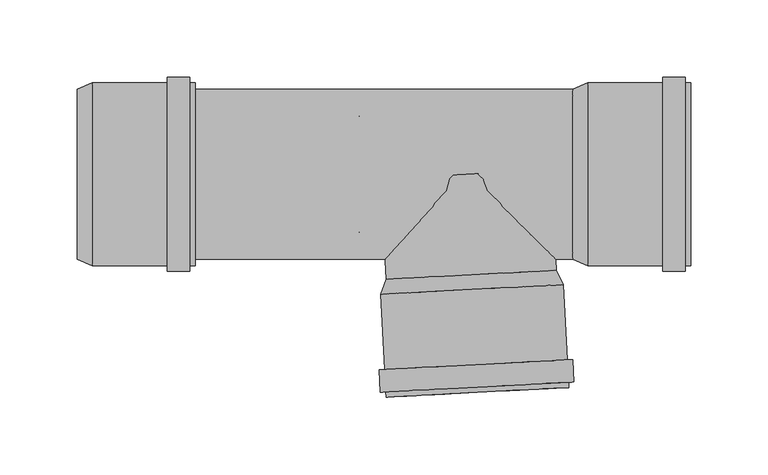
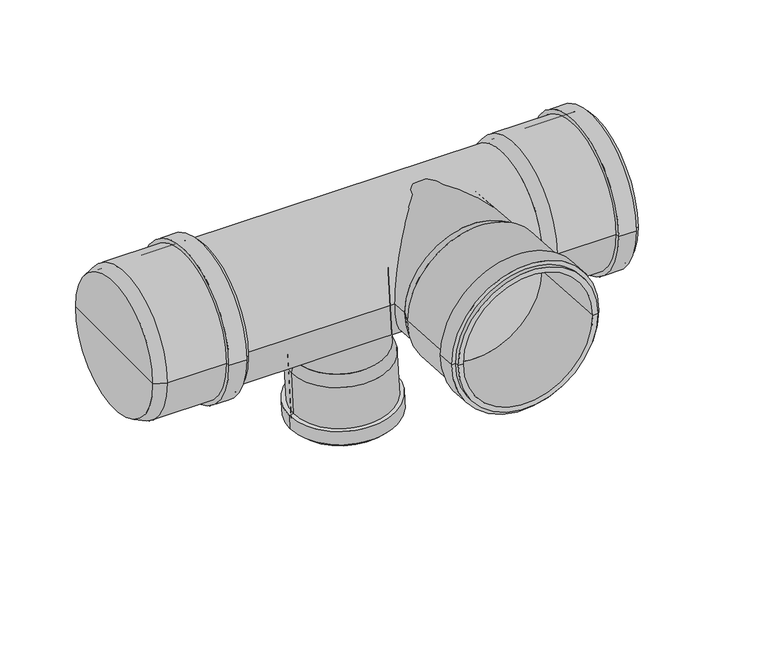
"""IFC4 building model written with IfcOpenShell, lengths in millimetres: pipe fitting geometry, pf_HTEP : pf_HTEP."""

from ifc_helpers import new_model, si_unit, point, frame, origin, origin_2d, place, context, project, spatial, polyline, circle_curve, trimmed, segment, composite_curve, outline, extrude, source, transform, mapped, element, save
from ifc_brep_helpers import plane_surface, cylinder_surface, revolved_surface, advanced_brep


def pipe_fitting_a816e6ad(model_context):
    return source(origin(), model_context, "Body", "SolidModel", [
        advanced_brep(
        [(-103.1619095, 0.0, -64.6765331), (-28.2646944, 0.0, -60.7513364), (-24.6717513, 0.0, -70.0760755), (-105.7604695, 0.0, -74.3257552), (-65.7133019, 0.0, -62.7139348), (-103.0651677, 0.0, -125.7551762), (-21.9764495, 0.0, -121.5054966), (-25.0722011, 0.0, -121.667738), (-99.9694162, 0.0, -125.5929348), (-103.24311, 0.0, -122.3598358), (-22.1543918, 0.0, -118.1101562), (-106.6384504, 0.0, -122.5377781), (-18.7590513, 0.0, -117.9322139), (-107.2455475, 0.0, -110.9536755), (-19.3661484, 0.0, -106.3481113), (-103.8502071, 0.0, -110.7757332), (-22.7614888, 0.0, -106.5260536), (-102.6647179, 0.0, -74.1635137), (-27.7675028, 0.0, -70.238317), (-65.2161104, 0.0, -72.2009154)],
        [
            (0, 1, circle_curve(frame((-65.7133019, 0.0, -62.7139348), z_axis=(0.05233595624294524, 0.0, -0.9986295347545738), x_axis=(0.9986295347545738, 0.0, 0.05233595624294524)), 37.5)),
            (1, 2),
            (2, 3, circle_curve(frame((-65.2161104, 0.0, -72.2009154), z_axis=(-0.05233595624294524, 0.0, 0.9986295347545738), x_axis=(0.9986295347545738, 0.0, 0.05233595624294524)), 40.6)),
            (3, 0),
            (1, 0, circle_curve(frame((-65.7133019, 0.0, -62.7139348), z_axis=(0.05233595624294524, 0.0, -0.9986295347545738), x_axis=(0.9986295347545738, 0.0, 0.05233595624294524)), 37.5)),
            (3, 2, circle_curve(frame((-65.2161104, 0.0, -72.2009154), z_axis=(-0.05233595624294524, 0.0, 0.9986295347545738), x_axis=(0.9986295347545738, 0.0, 0.05233595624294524)), 40.6)),
            (4, 1),
            (0, 4),
            (5, 6, circle_curve(frame((-62.5208086, 0.0, -123.6303364), z_axis=(0.05233595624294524, 0.0, -0.9986295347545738), x_axis=(0.9986295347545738, 0.0, 0.05233595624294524)), 40.6)),
            (6, 7),
            (7, 8, circle_curve(frame((-62.5208086, 0.0, -123.6303364), z_axis=(-0.05233595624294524, 0.0, 0.9986295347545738), x_axis=(0.9986295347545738, 0.0, 0.05233595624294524)), 37.5)),
            (8, 5),
            (6, 5, circle_curve(frame((-62.5208086, 0.0, -123.6303364), z_axis=(0.05233595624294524, 0.0, -0.9986295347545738), x_axis=(0.9986295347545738, 0.0, 0.05233595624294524)), 40.6)),
            (8, 7, circle_curve(frame((-62.5208086, 0.0, -123.6303364), z_axis=(-0.05233595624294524, 0.0, 0.9986295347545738), x_axis=(0.9986295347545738, 0.0, 0.05233595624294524)), 37.5)),
            (9, 10, circle_curve(frame((-62.6987509, 0.0, -120.234996), z_axis=(0.05233595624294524, 0.0, -0.9986295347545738), x_axis=(0.9986295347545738, 0.0, 0.05233595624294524)), 40.6)),
            (10, 6),
            (5, 9),
            (10, 9, circle_curve(frame((-62.6987509, 0.0, -120.234996), z_axis=(0.05233595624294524, 0.0, -0.9986295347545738), x_axis=(0.9986295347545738, 0.0, 0.05233595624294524)), 40.6)),
            (11, 12, circle_curve(frame((-62.6987509, 0.0, -120.234996), z_axis=(0.05233595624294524, 0.0, -0.9986295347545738), x_axis=(0.9986295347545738, 0.0, 0.05233595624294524)), 44.0)),
            (12, 10),
            (9, 11),
            (12, 11, circle_curve(frame((-62.6987509, 0.0, -120.234996), z_axis=(0.05233595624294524, 0.0, -0.9986295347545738), x_axis=(0.9986295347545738, 0.0, 0.05233595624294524)), 44.0)),
            (13, 14, circle_curve(frame((-63.305848, 0.0, -108.6508934), z_axis=(0.05233595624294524, 0.0, -0.9986295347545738), x_axis=(0.9986295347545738, 0.0, 0.05233595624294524)), 44.0)),
            (14, 12),
            (11, 13),
            (14, 13, circle_curve(frame((-63.305848, 0.0, -108.6508934), z_axis=(0.05233595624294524, 0.0, -0.9986295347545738), x_axis=(0.9986295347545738, 0.0, 0.05233595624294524)), 44.0)),
            (15, 16, circle_curve(frame((-63.305848, 0.0, -108.6508934), z_axis=(0.05233595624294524, 0.0, -0.9986295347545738), x_axis=(0.9986295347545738, 0.0, 0.05233595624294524)), 40.6)),
            (16, 14),
            (13, 15),
            (16, 15, circle_curve(frame((-63.305848, 0.0, -108.6508934), z_axis=(0.05233595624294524, 0.0, -0.9986295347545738), x_axis=(0.9986295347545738, 0.0, 0.05233595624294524)), 40.6)),
            (2, 16),
            (15, 3),
            (17, 18, circle_curve(frame((-65.2161104, 0.0, -72.2009154), z_axis=(0.05233595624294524, 0.0, -0.9986295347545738), x_axis=(0.9986295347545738, 0.0, 0.05233595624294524)), 37.5)),
            (18, 19),
            (19, 17),
            (18, 17, circle_curve(frame((-65.2161104, 0.0, -72.2009154), z_axis=(0.05233595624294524, 0.0, -0.9986295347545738), x_axis=(0.9986295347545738, 0.0, 0.05233595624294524)), 37.5)),
            (7, 18),
            (17, 8),
        ],
        [
            revolved_surface(polyline([(-24.6717513, 0.0, -70.0760755), (-28.2646944, 0.0, -60.7513364)]), (-65.7133019, 0.0, -62.7139348), (-0.05233595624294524, 0.0, 0.9986295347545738)),
            plane_surface(frame((-65.7133019, 0.0, -62.7139348), z_axis=(-0.05233595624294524, 0.0, 0.9986295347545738), x_axis=(0.9986295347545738, 0.0, 0.05233595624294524))),
            plane_surface(frame((-62.5208086, 0.0, -123.6303364), z_axis=(0.05233595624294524, 0.0, -0.9986295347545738), x_axis=(0.9986295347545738, 0.0, 0.05233595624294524))),
            cylinder_surface(frame((-65.7133019, 0.0, -62.7139348), z_axis=(-0.05233595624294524, 0.0, 0.9986295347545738), x_axis=(0.9986295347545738, 0.0, 0.05233595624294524)), 40.6),
            plane_surface(frame((-62.6987509, 0.0, -120.234996), z_axis=(0.05233595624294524, 0.0, -0.9986295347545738), x_axis=(0.9986295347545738, 0.0, 0.05233595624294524))),
            cylinder_surface(frame((-65.7133019, 0.0, -62.7139348), z_axis=(-0.05233595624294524, 0.0, 0.9986295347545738), x_axis=(0.9986295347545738, 0.0, 0.05233595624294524)), 44.0),
            plane_surface(frame((-63.305848, 0.0, -108.6508934), z_axis=(-0.05233595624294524, 0.0, 0.9986295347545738), x_axis=(0.9986295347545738, 0.0, 0.05233595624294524))),
            plane_surface(frame((-65.2161104, 0.0, -72.2009154), z_axis=(0.05233595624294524, 0.0, -0.9986295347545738), x_axis=(0.9986295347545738, 0.0, 0.05233595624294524))),
            revolved_surface(polyline([(-27.76750276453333, 0.0, -70.2383169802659), (-25.072201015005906, 0.0, -121.66773807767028)]), (-65.7133019, 0.0, -62.7139348), (-0.05233595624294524, 0.0, 0.9986295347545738)),
        ],
        [
            (0, [[1, 2, 3, 4]]),
            (0, [[5, -4, 6, -2]]),
            (1, [[7, -1, 8]]),
            (1, [[-8, -5, -7]]),
            (2, [[9, 10, 11, 12]]),
            (2, [[13, -12, 14, -10]]),
            (3, [[15, 16, -9, 17]]),
            (3, [[18, -17, -13, -16]]),
            (4, [[19, 20, -15, 21]]),
            (4, [[22, -21, -18, -20]]),
            (5, [[23, 24, -19, 25]]),
            (5, [[26, -25, -22, -24]]),
            (6, [[27, 28, -23, 29]]),
            (6, [[30, -29, -26, -28]]),
            (3, [[-3, 31, -27, 32]]),
            (3, [[-6, -32, -30, -31]]),
            (7, [[33, 34, 35]]),
            (7, [[36, -35, -34]]),
            (8, [[-11, 37, -33, 38]]),
            (8, [[-14, -38, -36, -37]]),
        ],
    ),
        advanced_brep(
        [(-51.5227873, -67.7893974, 0.0), (58.3264616, -62.0324422, 0.0), (62.9180342, -71.3048453, 0.0), (-55.1199768, -77.4909554, 0.0), (3.4018372, -64.9109198, 0.0), (-51.6396357, -143.8998194, 0.0), (66.3983753, -137.7137094, 0.0), (62.3039942, -137.9282868, 0.0), (-47.5452546, -143.685242, 0.0), (-51.8175779, -140.504479, 0.0), (66.2204331, -134.318369, 0.0), (-55.2129183, -140.6824212, 0.0), (69.6157735, -134.1404267, 0.0), (-55.9717897, -126.202293, 0.0), (68.8569021, -119.6602985, 0.0), (-52.5764493, -126.0243507, 0.0), (65.4615617, -119.8382407, 0.0), (-51.0255957, -77.2763779, 0.0), (58.8236532, -71.5194227, 0.0), (3.8990287, -74.3979003, 0.0)],
        [
            (0, 1, circle_curve(frame((3.4018372, -64.9109198, 0.0), z_axis=(0.052335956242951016, -0.9986295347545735, 0.0), x_axis=(0.9986295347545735, 0.052335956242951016, 0.0)), 55.0)),
            (1, 2),
            (2, 3, circle_curve(frame((3.8990287, -74.3979003, 0.0), z_axis=(-0.052335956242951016, 0.9986295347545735, 0.0), x_axis=(0.9986295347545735, 0.052335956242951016, 0.0)), 59.1)),
            (3, 0),
            (1, 0, circle_curve(frame((3.4018372, -64.9109198, 0.0), z_axis=(0.052335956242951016, -0.9986295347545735, 0.0), x_axis=(0.9986295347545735, 0.052335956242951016, 0.0)), 55.0)),
            (3, 2, circle_curve(frame((3.8990287, -74.3979003, 0.0), z_axis=(-0.052335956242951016, 0.9986295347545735, 0.0), x_axis=(0.9986295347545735, 0.052335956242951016, 0.0)), 59.1)),
            (4, 1),
            (0, 4),
            (5, 6, circle_curve(frame((7.3793698, -140.8067644, 0.0), z_axis=(0.052335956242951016, -0.9986295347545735, 0.0), x_axis=(0.9986295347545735, 0.052335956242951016, 0.0)), 59.1)),
            (6, 7),
            (7, 8, circle_curve(frame((7.3793698, -140.8067644, 0.0), z_axis=(-0.052335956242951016, 0.9986295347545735, 0.0), x_axis=(0.9986295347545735, 0.052335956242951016, 0.0)), 55.0)),
            (8, 5),
            (6, 5, circle_curve(frame((7.3793698, -140.8067644, 0.0), z_axis=(0.052335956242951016, -0.9986295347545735, 0.0), x_axis=(0.9986295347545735, 0.052335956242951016, 0.0)), 59.1)),
            (8, 7, circle_curve(frame((7.3793698, -140.8067644, 0.0), z_axis=(-0.052335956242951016, 0.9986295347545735, 0.0), x_axis=(0.9986295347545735, 0.052335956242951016, 0.0)), 55.0)),
            (9, 10, circle_curve(frame((7.2014276, -137.411424, 0.0), z_axis=(0.052335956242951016, -0.9986295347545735, 0.0), x_axis=(0.9986295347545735, 0.052335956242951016, 0.0)), 59.1)),
            (10, 6),
            (5, 9),
            (10, 9, circle_curve(frame((7.2014276, -137.411424, 0.0), z_axis=(0.052335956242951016, -0.9986295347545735, 0.0), x_axis=(0.9986295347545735, 0.052335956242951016, 0.0)), 59.1)),
            (11, 12, circle_curve(frame((7.2014276, -137.411424, 0.0), z_axis=(0.052335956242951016, -0.9986295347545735, 0.0), x_axis=(0.9986295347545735, 0.052335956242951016, 0.0)), 62.5)),
            (12, 10),
            (9, 11),
            (12, 11, circle_curve(frame((7.2014276, -137.411424, 0.0), z_axis=(0.052335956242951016, -0.9986295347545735, 0.0), x_axis=(0.9986295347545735, 0.052335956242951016, 0.0)), 62.5)),
            (13, 14, circle_curve(frame((6.4425562, -122.9312957, 0.0), z_axis=(0.052335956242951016, -0.9986295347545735, 0.0), x_axis=(0.9986295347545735, 0.052335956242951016, 0.0)), 62.5)),
            (14, 12),
            (11, 13),
            (14, 13, circle_curve(frame((6.4425562, -122.9312957, 0.0), z_axis=(0.052335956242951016, -0.9986295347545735, 0.0), x_axis=(0.9986295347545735, 0.052335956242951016, 0.0)), 62.5)),
            (15, 16, circle_curve(frame((6.4425562, -122.9312957, 0.0), z_axis=(0.052335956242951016, -0.9986295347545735, 0.0), x_axis=(0.9986295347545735, 0.052335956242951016, 0.0)), 59.1)),
            (16, 14),
            (13, 15),
            (16, 15, circle_curve(frame((6.4425562, -122.9312957, 0.0), z_axis=(0.052335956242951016, -0.9986295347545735, 0.0), x_axis=(0.9986295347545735, 0.052335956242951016, 0.0)), 59.1)),
            (2, 16),
            (15, 3),
            (17, 18, circle_curve(frame((3.8990287, -74.3979003, 0.0), z_axis=(0.052335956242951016, -0.9986295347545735, 0.0), x_axis=(0.9986295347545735, 0.052335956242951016, 0.0)), 55.0)),
            (18, 19),
            (19, 17),
            (18, 17, circle_curve(frame((3.8990287, -74.3979003, 0.0), z_axis=(0.052335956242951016, -0.9986295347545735, 0.0), x_axis=(0.9986295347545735, 0.052335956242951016, 0.0)), 55.0)),
            (7, 18),
            (17, 8),
        ],
        [
            revolved_surface(polyline([(62.9180342, -71.3048453, 0.0), (58.3264616, -62.0324422, 0.0)]), (3.4018372, -64.9109198, 0.0), (-0.052335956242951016, 0.9986295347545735, 0.0)),
            plane_surface(frame((3.4018372, -64.9109198, 0.0), z_axis=(-0.052335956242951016, 0.9986295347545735, 0.0), x_axis=(0.9986295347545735, 0.052335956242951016, 0.0))),
            plane_surface(frame((7.3793698, -140.8067644, 0.0), z_axis=(0.052335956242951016, -0.9986295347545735, 0.0), x_axis=(0.9986295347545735, 0.052335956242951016, 0.0))),
            cylinder_surface(frame((3.4018372, -64.9109198, 0.0), z_axis=(-0.052335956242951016, 0.9986295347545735, 0.0), x_axis=(0.9986295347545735, 0.052335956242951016, 0.0)), 59.1),
            plane_surface(frame((7.2014276, -137.411424, 0.0), z_axis=(0.052335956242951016, -0.9986295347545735, 0.0), x_axis=(0.9986295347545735, 0.052335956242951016, 0.0))),
            cylinder_surface(frame((3.4018372, -64.9109198, 0.0), z_axis=(-0.052335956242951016, 0.9986295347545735, 0.0), x_axis=(0.9986295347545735, 0.052335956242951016, 0.0)), 62.5),
            plane_surface(frame((6.4425562, -122.9312957, 0.0), z_axis=(-0.052335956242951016, 0.9986295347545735, 0.0), x_axis=(0.9986295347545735, 0.052335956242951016, 0.0))),
            plane_surface(frame((3.8990287, -74.3979003, 0.0), z_axis=(0.052335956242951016, -0.9986295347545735, 0.0), x_axis=(0.9986295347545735, 0.052335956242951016, 0.0))),
            revolved_surface(polyline([(58.8236531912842, -71.51942270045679, 0.0), (62.30399428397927, -137.92828681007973, 0.0)]), (3.4018372, -64.9109198, 0.0), (-0.052335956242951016, 0.9986295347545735, 0.0)),
        ],
        [
            (0, [[1, 2, 3, 4]]),
            (0, [[5, -4, 6, -2]]),
            (1, [[7, -1, 8]]),
            (1, [[-8, -5, -7]]),
            (2, [[9, 10, 11, 12]]),
            (2, [[13, -12, 14, -10]]),
            (3, [[15, 16, -9, 17]]),
            (3, [[18, -17, -13, -16]]),
            (4, [[19, 20, -15, 21]]),
            (4, [[22, -21, -18, -20]]),
            (5, [[23, 24, -19, 25]]),
            (5, [[26, -25, -22, -24]]),
            (6, [[27, 28, -23, 29]]),
            (6, [[30, -29, -26, -28]]),
            (3, [[-3, 31, -27, 32]]),
            (3, [[-6, -32, -30, -31]]),
            (7, [[33, 34, 35]]),
            (7, [[36, -35, -34]]),
            (8, [[-11, 37, -33, 38]]),
            (8, [[-14, -38, -36, -37]]),
        ],
    ),
        advanced_brep(
        [(69.0, -55.0, 0.0), (69.0, 55.0, 0.0), (78.5, 59.1, 0.0), (78.5, -59.1, 0.0), (69.0, 0.0, 0.0), (145.0, -59.1, 0.0), (145.0, 59.1, 0.0), (145.0, 55.0, 0.0), (145.0, -55.0, 0.0), (141.6, -59.1, 0.0), (141.6, 59.1, 0.0), (141.6, -62.5, 0.0), (141.6, 62.5, 0.0), (127.1, -62.5, 0.0), (127.1, 62.5, 0.0), (127.1, -59.1, 0.0), (127.1, 59.1, 0.0), (78.5, -55.0, 0.0), (78.5, 55.0, 0.0), (78.5, 0.0, 0.0)],
        [
            (0, 1, circle_curve(frame((69.0, 0.0, 0.0), z_axis=(1.0, 0.0, 0.0), x_axis=(0.0, 1.0, 0.0)), 55.0)),
            (1, 2),
            (2, 3, circle_curve(frame((78.5, 0.0, 0.0), z_axis=(-1.0, 0.0, 0.0), x_axis=(0.0, 1.0, 0.0)), 59.1)),
            (3, 0),
            (1, 0, circle_curve(frame((69.0, 0.0, 0.0), z_axis=(1.0, 0.0, 0.0), x_axis=(0.0, 1.0, 0.0)), 55.0)),
            (3, 2, circle_curve(frame((78.5, 0.0, 0.0), z_axis=(-1.0, 0.0, 0.0), x_axis=(0.0, 1.0, 0.0)), 59.1)),
            (4, 1),
            (0, 4),
            (5, 6, circle_curve(frame((145.0, 0.0, 0.0), z_axis=(1.0, 0.0, 0.0), x_axis=(0.0, 1.0, 0.0)), 59.1)),
            (6, 7),
            (7, 8, circle_curve(frame((145.0, 0.0, 0.0), z_axis=(-1.0, 0.0, 0.0), x_axis=(0.0, 1.0, 0.0)), 55.0)),
            (8, 5),
            (6, 5, circle_curve(frame((145.0, 0.0, 0.0), z_axis=(1.0, 0.0, 0.0), x_axis=(0.0, 1.0, 0.0)), 59.1)),
            (8, 7, circle_curve(frame((145.0, 0.0, 0.0), z_axis=(-1.0, 0.0, 0.0), x_axis=(0.0, 1.0, 0.0)), 55.0)),
            (9, 10, circle_curve(frame((141.6, 0.0, 0.0), z_axis=(1.0, 0.0, 0.0), x_axis=(0.0, 1.0, 0.0)), 59.1)),
            (10, 6),
            (5, 9),
            (10, 9, circle_curve(frame((141.6, 0.0, 0.0), z_axis=(1.0, 0.0, 0.0), x_axis=(0.0, 1.0, 0.0)), 59.1)),
            (11, 12, circle_curve(frame((141.6, 0.0, 0.0), z_axis=(1.0, 0.0, 0.0), x_axis=(0.0, 1.0, 0.0)), 62.5)),
            (12, 10),
            (9, 11),
            (12, 11, circle_curve(frame((141.6, 0.0, 0.0), z_axis=(1.0, 0.0, 0.0), x_axis=(0.0, 1.0, 0.0)), 62.5)),
            (13, 14, circle_curve(frame((127.1, 0.0, 0.0), z_axis=(1.0, 0.0, 0.0), x_axis=(0.0, 1.0, 0.0)), 62.5)),
            (14, 12),
            (11, 13),
            (14, 13, circle_curve(frame((127.1, 0.0, 0.0), z_axis=(1.0, 0.0, 0.0), x_axis=(0.0, 1.0, 0.0)), 62.5)),
            (15, 16, circle_curve(frame((127.1, 0.0, 0.0), z_axis=(1.0, 0.0, 0.0), x_axis=(0.0, 1.0, 0.0)), 59.1)),
            (16, 14),
            (13, 15),
            (16, 15, circle_curve(frame((127.1, 0.0, 0.0), z_axis=(1.0, 0.0, 0.0), x_axis=(0.0, 1.0, 0.0)), 59.1)),
            (2, 16),
            (15, 3),
            (17, 18, circle_curve(frame((78.5, 0.0, 0.0), z_axis=(1.0, 0.0, 0.0), x_axis=(0.0, 1.0, 0.0)), 55.0)),
            (18, 19),
            (19, 17),
            (18, 17, circle_curve(frame((78.5, 0.0, 0.0), z_axis=(1.0, 0.0, 0.0), x_axis=(0.0, 1.0, 0.0)), 55.0)),
            (7, 18),
            (17, 8),
        ],
        [
            revolved_surface(polyline([(78.5, 59.1, 0.0), (69.0, 55.0, 0.0)]), (69.0, 0.0, 0.0), (-1.0, 0.0, 0.0)),
            plane_surface(frame((69.0, 0.0, 0.0), z_axis=(-1.0, 0.0, 0.0), x_axis=(0.0, 1.0, 0.0))),
            plane_surface(frame((145.0, 0.0, 0.0), z_axis=(1.0, 0.0, 0.0), x_axis=(0.0, 1.0, 0.0))),
            cylinder_surface(frame((69.0, 0.0, 0.0), z_axis=(-1.0, 0.0, 0.0), x_axis=(0.0, 1.0, 0.0)), 59.1),
            plane_surface(frame((141.6, 0.0, 0.0), z_axis=(1.0, 0.0, 0.0), x_axis=(0.0, 1.0, 0.0))),
            cylinder_surface(frame((69.0, 0.0, 0.0), z_axis=(-1.0, 0.0, 0.0), x_axis=(0.0, 1.0, 0.0)), 62.5),
            plane_surface(frame((127.1, 0.0, 0.0), z_axis=(-1.0, 0.0, 0.0), x_axis=(0.0, 1.0, 0.0))),
            plane_surface(frame((78.5, 0.0, 0.0), z_axis=(1.0, 0.0, 0.0), x_axis=(0.0, 1.0, 0.0))),
            revolved_surface(polyline([(78.5, 55.0, 0.0), (145.0, 55.0, 0.0)]), (69.0, 0.0, 0.0), (-1.0, 0.0, 0.0)),
        ],
        [
            (0, [[1, 2, 3, 4]]),
            (0, [[5, -4, 6, -2]]),
            (1, [[7, -1, 8]]),
            (1, [[-8, -5, -7]]),
            (2, [[9, 10, 11, 12]]),
            (2, [[13, -12, 14, -10]]),
            (3, [[15, 16, -9, 17]]),
            (3, [[18, -17, -13, -16]]),
            (4, [[19, 20, -15, 21]]),
            (4, [[22, -21, -18, -20]]),
            (5, [[23, 24, -19, 25]]),
            (5, [[26, -25, -22, -24]]),
            (6, [[27, 28, -23, 29]]),
            (6, [[30, -29, -26, -28]]),
            (3, [[-3, 31, -27, 32]]),
            (3, [[-6, -32, -30, -31]]),
            (7, [[33, 34, 35]]),
            (7, [[36, -35, -34]]),
            (8, [[-11, 37, -33, 38]]),
            (8, [[-14, -38, -36, -37]]),
        ],
    ),
        advanced_brep(
        [(-250.9, -55.0, 0.0), (-250.9, 55.0, 0.0), (-241.4, 59.1, 0.0), (-241.4, -59.1, 0.0), (-250.9, 0.0, 0.0), (-174.9, -59.1, 0.0), (-174.9, 59.1, 0.0), (-174.9, 55.0, 0.0), (-174.9, -55.0, 0.0), (-178.3, -59.1, 0.0), (-178.3, 59.1, 0.0), (-178.3, -62.5, 0.0), (-178.3, 62.5, 0.0), (-192.8, -62.5, 0.0), (-192.8, 62.5, 0.0), (-192.8, -59.1, 0.0), (-192.8, 59.1, 0.0), (-241.4, -55.0, 0.0), (-241.4, 55.0, 0.0), (-241.4, 0.0, 0.0)],
        [
            (0, 1, circle_curve(frame((-250.9, 0.0, 0.0), z_axis=(1.0, 0.0, 0.0), x_axis=(0.0, 1.0, 0.0)), 55.0)),
            (1, 2),
            (2, 3, circle_curve(frame((-241.4, 0.0, 0.0), z_axis=(-1.0, 0.0, 0.0), x_axis=(0.0, 1.0, 0.0)), 59.1)),
            (3, 0),
            (1, 0, circle_curve(frame((-250.9, 0.0, 0.0), z_axis=(1.0, 0.0, 0.0), x_axis=(0.0, 1.0, 0.0)), 55.0)),
            (3, 2, circle_curve(frame((-241.4, 0.0, 0.0), z_axis=(-1.0, 0.0, 0.0), x_axis=(0.0, 1.0, 0.0)), 59.1)),
            (4, 1),
            (0, 4),
            (5, 6, circle_curve(frame((-174.9, 0.0, 0.0), z_axis=(1.0, 0.0, 0.0), x_axis=(0.0, 1.0, 0.0)), 59.1)),
            (6, 7),
            (7, 8, circle_curve(frame((-174.9, 0.0, 0.0), z_axis=(-1.0, 0.0, 0.0), x_axis=(0.0, 1.0, 0.0)), 55.0)),
            (8, 5),
            (6, 5, circle_curve(frame((-174.9, 0.0, 0.0), z_axis=(1.0, 0.0, 0.0), x_axis=(0.0, 1.0, 0.0)), 59.1)),
            (8, 7, circle_curve(frame((-174.9, 0.0, 0.0), z_axis=(-1.0, 0.0, 0.0), x_axis=(0.0, 1.0, 0.0)), 55.0)),
            (9, 10, circle_curve(frame((-178.3, 0.0, 0.0), z_axis=(1.0, 0.0, 0.0), x_axis=(0.0, 1.0, 0.0)), 59.1)),
            (10, 6),
            (5, 9),
            (10, 9, circle_curve(frame((-178.3, 0.0, 0.0), z_axis=(1.0, 0.0, 0.0), x_axis=(0.0, 1.0, 0.0)), 59.1)),
            (11, 12, circle_curve(frame((-178.3, 0.0, 0.0), z_axis=(1.0, 0.0, 0.0), x_axis=(0.0, 1.0, 0.0)), 62.5)),
            (12, 10),
            (9, 11),
            (12, 11, circle_curve(frame((-178.3, 0.0, 0.0), z_axis=(1.0, 0.0, 0.0), x_axis=(0.0, 1.0, 0.0)), 62.5)),
            (13, 14, circle_curve(frame((-192.8, 0.0, 0.0), z_axis=(1.0, 0.0, 0.0), x_axis=(0.0, 1.0, 0.0)), 62.5)),
            (14, 12),
            (11, 13),
            (14, 13, circle_curve(frame((-192.8, 0.0, 0.0), z_axis=(1.0, 0.0, 0.0), x_axis=(0.0, 1.0, 0.0)), 62.5)),
            (15, 16, circle_curve(frame((-192.8, 0.0, 0.0), z_axis=(1.0, 0.0, 0.0), x_axis=(0.0, 1.0, 0.0)), 59.1)),
            (16, 14),
            (13, 15),
            (16, 15, circle_curve(frame((-192.8, 0.0, 0.0), z_axis=(1.0, 0.0, 0.0), x_axis=(0.0, 1.0, 0.0)), 59.1)),
            (2, 16),
            (15, 3),
            (17, 18, circle_curve(frame((-241.4, 0.0, 0.0), z_axis=(1.0, 0.0, 0.0), x_axis=(0.0, 1.0, 0.0)), 55.0)),
            (18, 19),
            (19, 17),
            (18, 17, circle_curve(frame((-241.4, 0.0, 0.0), z_axis=(1.0, 0.0, 0.0), x_axis=(0.0, 1.0, 0.0)), 55.0)),
            (7, 18),
            (17, 8),
        ],
        [
            revolved_surface(polyline([(-241.4, 59.1, 0.0), (-250.9, 55.0, 0.0)]), (-250.9, 0.0, 0.0), (-1.0, 0.0, 0.0)),
            plane_surface(frame((-250.9, 0.0, 0.0), z_axis=(-1.0, 0.0, 0.0), x_axis=(0.0, 1.0, 0.0))),
            plane_surface(frame((-174.9, 0.0, 0.0), z_axis=(1.0, 0.0, 0.0), x_axis=(0.0, 1.0, 0.0))),
            cylinder_surface(frame((-250.9, 0.0, 0.0), z_axis=(-1.0, 0.0, 0.0), x_axis=(0.0, 1.0, 0.0)), 59.1),
            plane_surface(frame((-178.3, 0.0, 0.0), z_axis=(1.0, 0.0, 0.0), x_axis=(0.0, 1.0, 0.0))),
            cylinder_surface(frame((-250.9, 0.0, 0.0), z_axis=(-1.0, 0.0, 0.0), x_axis=(0.0, 1.0, 0.0)), 62.5),
            plane_surface(frame((-192.8, 0.0, 0.0), z_axis=(-1.0, 0.0, 0.0), x_axis=(0.0, 1.0, 0.0))),
            plane_surface(frame((-241.4, 0.0, 0.0), z_axis=(1.0, 0.0, 0.0), x_axis=(0.0, 1.0, 0.0))),
            revolved_surface(polyline([(-241.4, 55.0, 0.0), (-174.9, 55.0, 0.0)]), (-250.9, 0.0, 0.0), (-1.0, 0.0, 0.0)),
        ],
        [
            (0, [[1, 2, 3, 4]]),
            (0, [[5, -4, 6, -2]]),
            (1, [[7, -1, 8]]),
            (1, [[-8, -5, -7]]),
            (2, [[9, 10, 11, 12]]),
            (2, [[13, -12, 14, -10]]),
            (3, [[15, 16, -9, 17]]),
            (3, [[18, -17, -13, -16]]),
            (4, [[19, 20, -15, 21]]),
            (4, [[22, -21, -18, -20]]),
            (5, [[23, 24, -19, 25]]),
            (5, [[26, -25, -22, -24]]),
            (6, [[27, 28, -23, 29]]),
            (6, [[30, -29, -26, -28]]),
            (3, [[-3, 31, -27, 32]]),
            (3, [[-6, -32, -30, -31]]),
            (7, [[33, 34, 35]]),
            (7, [[36, -35, -34]]),
            (8, [[-11, 37, -33, 38]]),
            (8, [[-14, -38, -36, -37]]),
        ],
    ),
        extrude(outline(composite_curve([segment(trimmed(circle_curve(origin_2d(), 37.5), [point((0.0, -37.5))], [point((0.0, 37.4999999))], False, "CARTESIAN"), True, "CONTINUOUS"), segment(trimmed(circle_curve(origin_2d(), 37.5), [point((0.0, 37.4999999))], [point((0.0, -37.5))], False, "CARTESIAN"), True, "CONTINUOUS")], self_intersect=False)), frame((-65.7133019, 0.0, -62.7139348), z_axis=(-0.05233595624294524, 0.0, 0.9986295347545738), x_axis=(0.0, -1.0, 0.0)), (0.0, 0.0, 1.0), 62.8),
        extrude(outline(composite_curve([segment(trimmed(circle_curve(origin_2d(), 55.0), [point((0.0, -55.0000001))], [point((0.0, 55.0))], False, "CARTESIAN"), True, "CONTINUOUS"), segment(trimmed(circle_curve(origin_2d(), 55.0), [point((0.0, 55.0))], [point((0.0, -55.0000001))], False, "CARTESIAN"), True, "CONTINUOUS")], self_intersect=False)), frame((3.4018372, -64.9109198, 0.0), z_axis=(-0.052335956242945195, 0.9986295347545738, 0.0), x_axis=(0.0, 0.0, 1.0)), (0.0, 0.0, 1.0), 65.0),
        extrude(outline(composite_curve([segment(trimmed(circle_curve(origin_2d(), 55.0), [point((-55.0, 0.0))], [point((55.0, 0.0))], False, "CARTESIAN"), True, "CONTINUOUS"), segment(trimmed(circle_curve(origin_2d(), 55.0), [point((55.0, 0.0))], [point((-55.0, 0.0))], False, "CARTESIAN"), True, "CONTINUOUS")], self_intersect=False)), frame((-174.9, 0.0, 0.0), z_axis=(1.0, 0.0, 0.0), x_axis=(0.0, 1.0, 0.0)), (0.0, 0.0, 1.0), 243.9),
    ])


if __name__ == "__main__":
    model = new_model("IFC4")
    model_context = context("Model", 3, world=origin())
    ifc_project = project(units=[si_unit("LENGTHUNIT", "METRE", prefix="MILLI")], contexts=[model_context])
    site = spatial("IfcSite", under=ifc_project)
    building = spatial("IfcBuilding", under=site)
    placement = place(None, origin())
    pipe_fitting_shape = pipe_fitting_a816e6ad(model_context)
    element("IfcPipeFitting", 1, ObjectType="pf_HTEP : pf_HTEP", at=placement, inside=building, context=model_context, shape_type="MappedRepresentation", body=[
        mapped(pipe_fitting_shape, transform((0.0, 0.0, 0.0), x_axis=(1.0, 0.0, 0.0), y_axis=(0.0, 1.0, 0.0), z_axis=(0.0, 0.0, 1.0))),
    ])
    save(model, "model.ifc")
